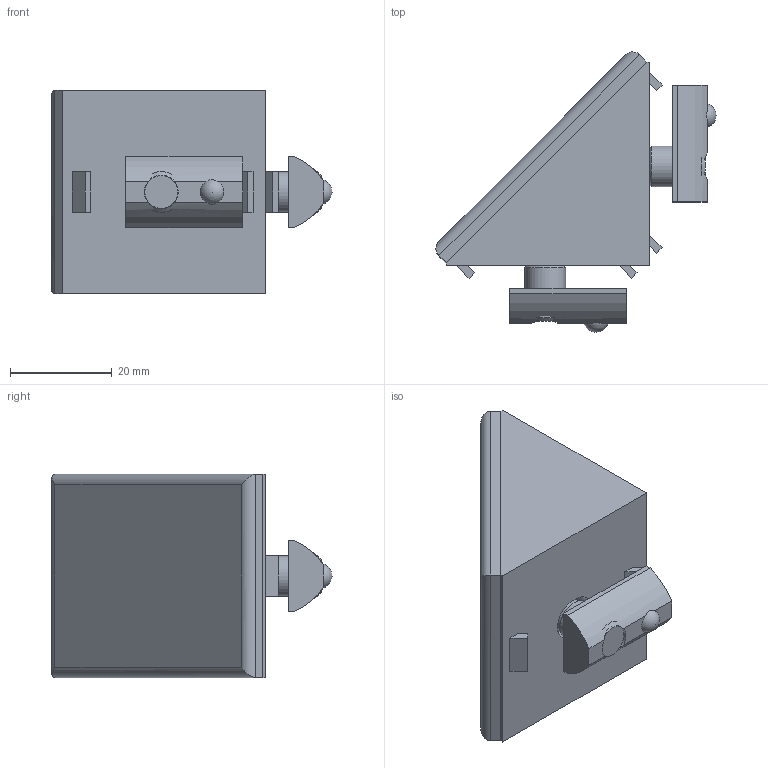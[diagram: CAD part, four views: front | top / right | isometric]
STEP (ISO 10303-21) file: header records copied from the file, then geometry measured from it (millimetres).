
FILE_DESCRIPTION(/* description */ ('STEP AP214'),/* implementation_level */ '2;1');
FILE_NAME(/* name */ 'Angle Bracket_ Zinc Die Casting GN 30i-40408-C-ZWSZS',/* time_stamp */ '2024-08-07T08:29:17+02:00',/* author */ ('License CC BY-ND 4.0'),/* organization */ ('CADENAS'),/* preprocessor_version */ 'ST-DEVELOPER v19.3',/* originating_system */ 'PARTsolutions',/* authorisation */ ' ');
FILE_SCHEMA (('AUTOMOTIVE_DESIGN {1 0 10303 214 3 1 1}'));
Length unit declared in the file: millimetre
Products named in the file (4): Angle Bracket, Zinc Die Casting GN 30i-40408-C-ZWSZS; Angle Bracket, Zinc Die Casting GN 30i-40408-C-ZWSZS-1; Angle Bracket, Zinc Die Casting GN 30i-40408-C-ZWSZS-2; Angle Bracket, Zinc Die Casting GN 30i-40408-C-ZWSZS-3
Assembly tree (5 placements, depth 2):
  Angle Bracket, Zinc Die Casting GN 30i-40408-C-ZWSZS
    Angle Bracket, Zinc Die Casting GN 30i-40408-C-ZWSZS-1
    Angle Bracket, Zinc Die Casting GN 30i-40408-C-ZWSZS-2  x2
    Angle Bracket, Zinc Die Casting GN 30i-40408-C-ZWSZS-3  x2
Bounding box: 55.1 x 55.1 x 40 mm (x, y, z)
Volume: 30727.9 mm3; surface area: 16248.5 mm2
Topology: 5 solids, 5 shells, 106 faces, 254 edges, 164 vertices
Faces by surface type: plane 78, cylinder 20, sphere 4, cone 4
Full cylindrical faces by diameter (mm): 6.647 x2, 7.2 x2, 8 x2, 14 x2
Entity records: 2637 total; most frequent: CARTESIAN_POINT 396, DIRECTION 368, ORIENTED_EDGE 350, EDGE_CURVE 175, LINE 142, VECTOR 142, VERTEX_POINT 117, AXIS2_PLACEMENT_3D 113
